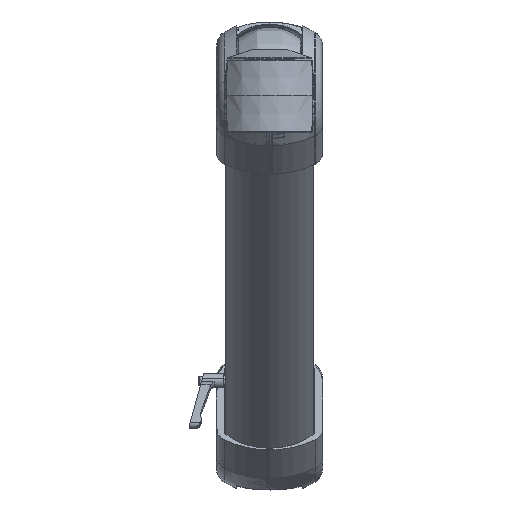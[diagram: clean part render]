
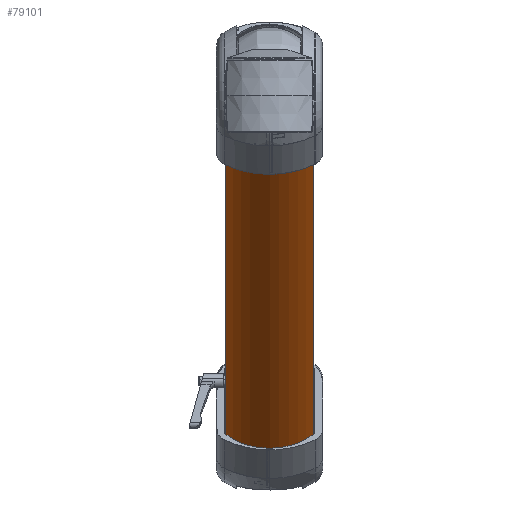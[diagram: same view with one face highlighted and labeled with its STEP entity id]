
A CAD part, top view. The second image highlights one B-rep face of the part: STEP entity #79101.
In plain terms, the highlighted cylindrical face has radius 55 mm (diameter 110 mm), a partial arc.
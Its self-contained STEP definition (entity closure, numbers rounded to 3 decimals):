
#74270=CARTESIAN_POINT('',(0.,0.,481.));
#74271=DIRECTION('',(0.,0.,1.));
#74272=DIRECTION('',(-0.72,-0.694,0.));
#74273=AXIS2_PLACEMENT_3D('',#74270,#74271,#74272);
#75106=CARTESIAN_POINT('',(0.,0.,0.));
#75107=DIRECTION('',(0.,0.,-1.));
#75108=DIRECTION('',(0.72,-0.694,0.));
#75109=AXIS2_PLACEMENT_3D('',#75106,#75107,#75108);
#75993=DIRECTION('',(0.,0.,1.));
#75994=VECTOR('',#75993,481.);
#75995=CARTESIAN_POINT('',(-39.579,-38.19,0.));
#75996=LINE('',#75995,#75994);
#76014=DIRECTION('',(0.,0.,-1.));
#76015=VECTOR('',#76014,481.);
#76016=CARTESIAN_POINT('',(39.579,-38.19,481.));
#76017=LINE('',#76016,#76015);
#77378=CARTESIAN_POINT('',(-39.579,-38.19,481.));
#77379=CARTESIAN_POINT('',(39.579,-38.19,481.));
#77380=VERTEX_POINT('',#77378);
#77381=VERTEX_POINT('',#77379);
#77482=CARTESIAN_POINT('',(-39.579,-38.19,0.));
#77484=VERTEX_POINT('',#77482);
#77653=CARTESIAN_POINT('',(39.579,-38.19,0.));
#77654=VERTEX_POINT('',#77653);
#79089=CARTESIAN_POINT('',(0.,0.,481.));
#79090=DIRECTION('',(0.,0.,-1.));
#79091=DIRECTION('',(-1.,0.,0.));
#79092=AXIS2_PLACEMENT_3D('',#79089,#79090,#79091);
#79093=CYLINDRICAL_SURFACE('',#79092,55.);
#79094=ORIENTED_EDGE('',*,*,#78036,.T.);
#79096=ORIENTED_EDGE('',*,*,#79095,.T.);
#79097=ORIENTED_EDGE('',*,*,#78477,.T.);
#79098=ORIENTED_EDGE('',*,*,#79082,.T.);
#79099=EDGE_LOOP('',(#79094,#79096,#79097,#79098));
#79100=FACE_OUTER_BOUND('',#79099,.F.);
#74274=CIRCLE('',#74273,55.);
#75110=CIRCLE('',#75109,55.);
#78036=EDGE_CURVE('',#77380,#77381,#74274,.T.);
#78477=EDGE_CURVE('',#77654,#77484,#75110,.T.);
#79082=EDGE_CURVE('',#77484,#77380,#75996,.T.);
#79095=EDGE_CURVE('',#77381,#77654,#76017,.T.);
#79101=ADVANCED_FACE('',(#79100),#79093,.T.);
